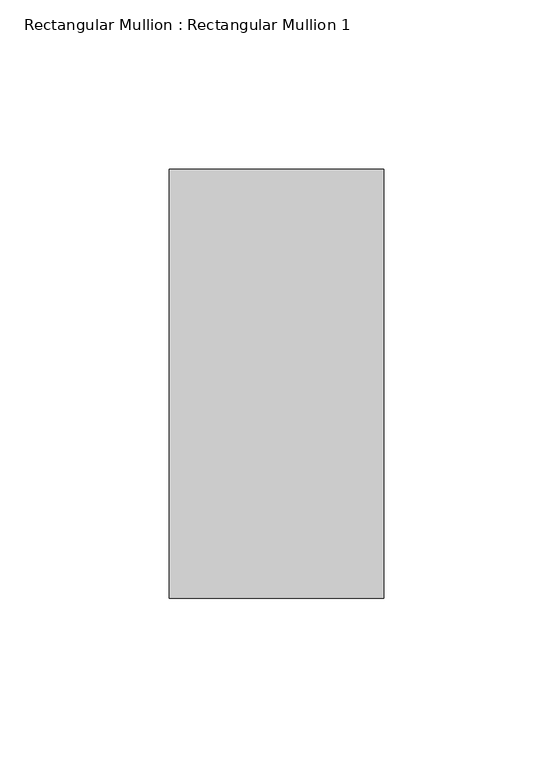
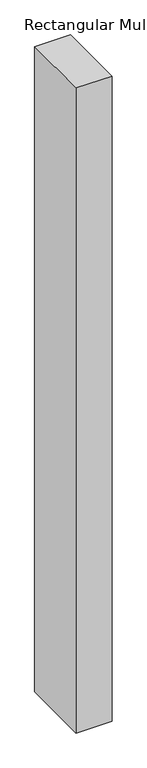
"""IFC4 building model written with IfcOpenShell, lengths in millimetres: member geometry, Rectangular Mullion : Rectangular Mullion 1."""

from ifc_helpers import new_model, si_unit, frame, origin, place, context, project, spatial, polyline, outline, extrude, source, transform, mapped, element, save


def rectangular_mullion_rectangular_mullion_1_136a39fb(model_context):
    return source(origin(), model_context, "Body", "SweptSolid", [
        extrude(outline(polyline([(31.75, 63.5), (31.75, -63.5), (-31.75, -63.5), (-31.75, 63.5), (31.75, 63.5)])), frame((0.0, 0.0, -1209.1475583), z_axis=(0.0, 0.0, 1.0), x_axis=(1.0, 0.0, 0.0)), (0.0, 0.0, 1.0), 1209.1475583),
    ])


if __name__ == "__main__":
    model = new_model("IFC4")
    model_context = context("Model", 3, world=origin())
    ifc_project = project(units=[si_unit("LENGTHUNIT", "METRE", prefix="MILLI")], contexts=[model_context])
    site = spatial("IfcSite", under=ifc_project)
    building = spatial("IfcBuilding", under=site)
    placement = place(None, origin())
    rectangular_mullion_rectangular_mullion_1_shape = rectangular_mullion_rectangular_mullion_1_136a39fb(model_context)
    element("IfcMember", 1, ObjectType="Rectangular Mullion : Rectangular Mullion 1", at=placement, inside=building, context=model_context, shape_type="MappedRepresentation", body=[
        mapped(rectangular_mullion_rectangular_mullion_1_shape, transform((0.0, 0.0, 0.0), x_axis=(1.0, 0.0, 0.0), y_axis=(0.0, 1.0, 0.0), z_axis=(0.0, 0.0, 1.0))),
    ])
    save(model, "model.ifc")
